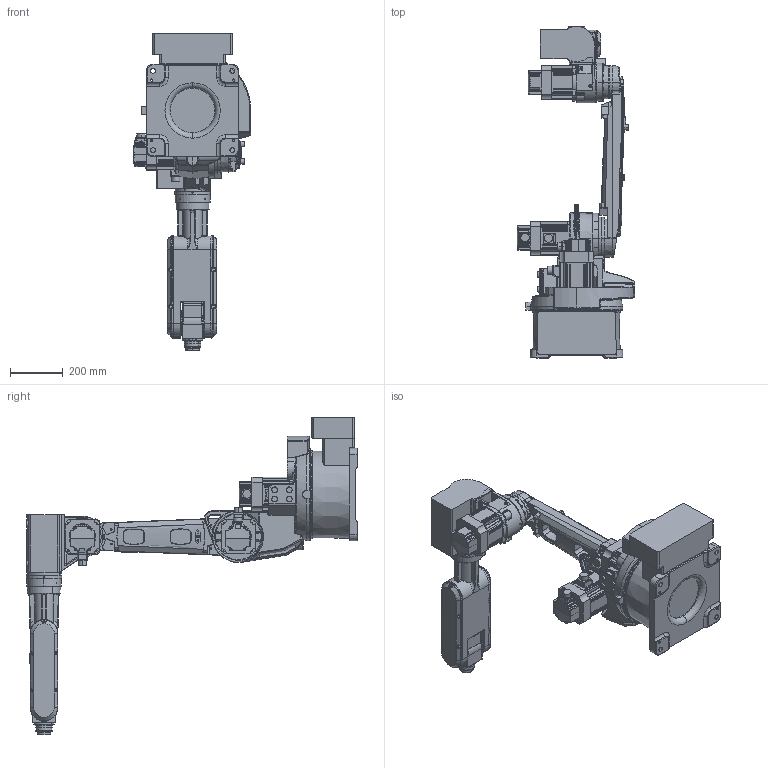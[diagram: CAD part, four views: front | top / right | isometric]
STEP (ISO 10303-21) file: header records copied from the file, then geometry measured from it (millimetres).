
FILE_DESCRIPTION (( 'STEP AP203' ), '1' );
FILE_NAME ('TKB1600-3D.STEP', '2019-08-14T06:11:47', ( '' ), ( '' ), 'SwSTEP 2.0', 'SolidWorks 2017', '' );
FILE_SCHEMA (( 'CONFIG_CONTROL_DESIGN' ));
Products named in the file (8): TKB1600-00; TKB1600-05; TKB1600-01; TKB1600-04; TKB1600-06; TKB1600-02; TKB1600-03; TKB1600-3D
Assembly tree (7 placements, depth 2):
  TKB1600-3D
    TKB1600-00
    TKB1600-01
    TKB1600-02
    TKB1600-03
    TKB1600-04
    TKB1600-05
    TKB1600-06
Bounding box: 444.5 x 1256 x 1203 mm (x, y, z)
Volume: 52842222.6 mm3; surface area: 3528766.3 mm2
Topology: 22 solids, 30 shells, 4765 faces, 11992 edges, 7437 vertices
Faces by surface type: cylinder 1901, plane 1522, bspline 603, cone 380, torus 286, sphere 73
Entity records: 179459 total; most frequent: CARTESIAN_POINT 68399, ORIENTED_EDGE 23568, DIRECTION 22611, EDGE_CURVE 11784, AXIS2_PLACEMENT_3D 8739, VERTEX_POINT 7436, EDGE_LOOP 5274, VECTOR 5133
